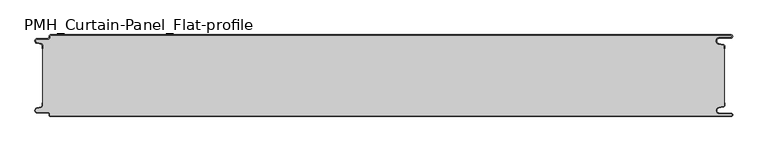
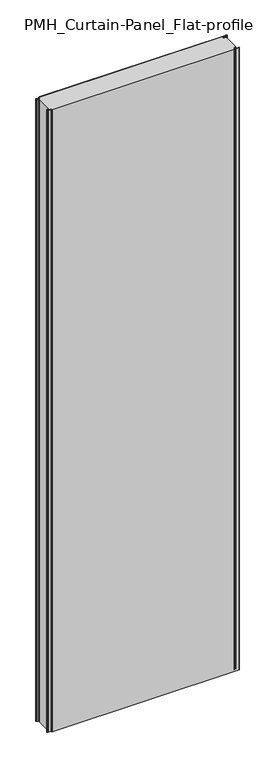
"""IFC4 building model written with IfcOpenShell, lengths in millimetres: plate geometry, PMH_Curtain-Panel_Flat-profile : ACH_PMH_Stone-wool-Panel_120M."""

from ifc_helpers import new_model, si_unit, point, frame, frame_2d, origin, origin_with_axes, place, context, project, spatial, polyline, circle_curve, trimmed, segment, composite_curve, outline, extrude, source, transform, mapped, element, save
from ifc_brep_helpers import plane_surface, cylinder_surface, revolved_surface, advanced_brep


def pmh_curtain_panel_flat_profile_743ba4fc(model_context):
    return source(origin(), model_context, "Body", "SolidModel", [
        advanced_brep(
        [(508.1, 0.0, 3500.0), (-487.4, 0.0, 3500.0), (-489.4, -2.0, 3500.0), (-489.4, -3.4, 3500.0), (-491.4, -5.4, 3500.0), (-506.9, -5.4, 3500.0), (-507.7098239, -12.5077322, 3500.0), (-501.5500979, -13.929817, 3500.0), (-500.0, -15.878557, 3500.0), (-500.0, -20.0, 3500.0), (-499.2, -20.0, 3500.0), (-499.2, -15.878557, 3500.0), (-501.370137, -13.1503208, 3500.0), (-507.529863, -11.728236, 3500.0), (-506.9, -6.2, 3500.0), (-491.4, -6.2, 3500.0), (-488.6, -3.4, 3500.0), (-488.6, -2.0, 3500.0), (-487.4, -0.8, 3500.0), (508.1, -0.8, 3500.0), (508.1, -4.2, 3500.0), (491.1, -4.2, 3500.0), (490.2664884, -13.7270771, 3500.0), (496.7125669, -14.8636953, 3500.0), (498.2, -16.6363492, 3500.0), (498.2, -20.0, 3500.0), (499.0, -20.0, 3500.0), (499.0, -16.6363492, 3500.0), (496.8514855, -14.0758491, 3500.0), (490.405407, -12.939231, 3500.0), (491.1, -5.0, 3500.0), (508.1, -5.0, 3500.0), (510.6, -2.5000002, 3500.0), (-487.4, 0.0, 0.0), (508.1, 0.0, 0.0), (510.6, -2.4999998, 0.0), (508.1, -5.0, 0.0), (491.1, -5.0, 0.0), (490.405407, -12.939231, 0.0), (496.8514855, -14.0758491, 0.0), (499.0, -16.6363492, 0.0), (499.0, -20.0, 0.0), (498.2, -20.0, 0.0), (498.2, -16.6363492, 0.0), (496.7125669, -14.8636953, 0.0), (490.2664884, -13.7270771, 0.0), (491.1, -4.2, 0.0), (508.1, -4.2, 0.0), (508.1, -0.8, 0.0), (-487.4, -0.8, 0.0), (-488.6, -2.0, 0.0), (-488.6, -3.4, 0.0), (-491.4, -6.2, 0.0), (-506.9, -6.2, 0.0), (-507.529863, -11.7282362, 0.0), (-501.370137, -13.150321, 0.0), (-499.2, -15.878557, 0.0), (-499.2, -20.0, 0.0), (-500.0, -20.0, 0.0), (-500.0, -15.878557, 0.0), (-501.5500978, -13.9298169, 0.0), (-507.7098239, -12.507732, 0.0), (-506.9, -5.4, 0.0), (-491.4, -5.4, 0.0), (-489.4, -3.4, 0.0), (-489.4, -2.0, 0.0)],
        [
            (0, 1),
            (1, 2, circle_curve(frame((-487.4, -2.0, 3500.0), z_axis=(0.0, 0.0, 1.0), x_axis=(1.0, 0.0, 0.0)), 2.0)),
            (2, 3),
            (3, 4, circle_curve(frame((-491.4, -3.4, 3500.0), z_axis=(0.0, 0.0, -1.0), x_axis=(1.0, 0.0, 0.0)), 2.0)),
            (4, 5),
            (5, 6, circle_curve(frame((-506.9, -9.0, 3500.0), z_axis=(0.0, 0.0, 1.0), x_axis=(1.0, 0.0, 0.0)), 3.6)),
            (6, 7),
            (7, 8, circle_curve(frame((-502.0, -15.878557, 3500.0), z_axis=(0.0, 0.0, -1.0), x_axis=(1.0, 0.0, 0.0)), 2.0)),
            (8, 9),
            (9, 10),
            (10, 11),
            (11, 12, circle_curve(frame((-502.0, -15.878557, 3500.0), z_axis=(0.0, 0.0, 1.0), x_axis=(1.0, 0.0, 0.0)), 2.8)),
            (12, 13),
            (13, 14, circle_curve(frame((-506.9, -9.0, 3500.0), z_axis=(0.0, 0.0, -1.0), x_axis=(1.0, 0.0, 0.0)), 2.8)),
            (14, 15),
            (15, 16, circle_curve(frame((-491.4, -3.4, 3500.0), z_axis=(0.0, 0.0, 1.0), x_axis=(1.0, 0.0, 0.0)), 2.8)),
            (16, 17),
            (17, 18, circle_curve(frame((-487.4, -2.0, 3500.0), z_axis=(0.0, 0.0, -1.0), x_axis=(1.0, 0.0, 0.0)), 1.2)),
            (18, 19),
            (19, 20, circle_curve(frame((508.1, -2.5, 3500.0), z_axis=(0.0, 0.0, -1.0), x_axis=(1.0, 0.0, 0.0)), 1.7)),
            (20, 21),
            (21, 22, circle_curve(frame((491.1, -9.0, 3500.0), z_axis=(0.0, 0.0, 1.0), x_axis=(1.0, 0.0, 0.0)), 4.8)),
            (22, 23),
            (23, 24, circle_curve(frame((496.4, -16.6363492, 3500.0), z_axis=(0.0, 0.0, -1.0), x_axis=(1.0, 0.0, 0.0)), 1.8)),
            (24, 25),
            (25, 26),
            (26, 27),
            (27, 28, circle_curve(frame((496.4, -16.6363492, 3500.0), z_axis=(0.0, 0.0, 1.0), x_axis=(1.0, 0.0, 0.0)), 2.6)),
            (28, 29),
            (29, 30, circle_curve(frame((491.1, -9.0, 3500.0), z_axis=(0.0, 0.0, -1.0), x_axis=(1.0, 0.0, 0.0)), 4.0)),
            (30, 31),
            (31, 32, circle_curve(frame((508.1, -2.5, 3500.0), z_axis=(0.0, 0.0, 1.0), x_axis=(1.0, 0.0, 0.0)), 2.5)),
            (32, 0, circle_curve(frame((508.1, -2.5, 3500.0), z_axis=(0.0, 0.0, 1.0), x_axis=(1.0, 0.0, 0.0)), 2.5)),
            (33, 34),
            (34, 35, circle_curve(frame((508.1, -2.5, 0.0), z_axis=(0.0, 0.0, -1.0), x_axis=(1.0, 0.0, 0.0)), 2.5)),
            (35, 36, circle_curve(frame((508.1, -2.5, 0.0), z_axis=(0.0, 0.0, -1.0), x_axis=(1.0, 0.0, 0.0)), 2.5)),
            (36, 37),
            (37, 38, circle_curve(frame((491.1, -9.0, 0.0), z_axis=(0.0, 0.0, 1.0), x_axis=(1.0, 0.0, 0.0)), 4.0)),
            (38, 39),
            (39, 40, circle_curve(frame((496.4, -16.6363492, 0.0), z_axis=(0.0, 0.0, -1.0), x_axis=(1.0, 0.0, 0.0)), 2.6)),
            (40, 41),
            (41, 42),
            (42, 43),
            (43, 44, circle_curve(frame((496.4, -16.6363492, 0.0), z_axis=(0.0, 0.0, 1.0), x_axis=(1.0, 0.0, 0.0)), 1.8)),
            (44, 45),
            (45, 46, circle_curve(frame((491.1, -9.0, 0.0), z_axis=(0.0, 0.0, -1.0), x_axis=(1.0, 0.0, 0.0)), 4.8)),
            (46, 47),
            (47, 48, circle_curve(frame((508.1, -2.5, 0.0), z_axis=(0.0, 0.0, 1.0), x_axis=(1.0, 0.0, 0.0)), 1.7)),
            (48, 49),
            (49, 50, circle_curve(frame((-487.4, -2.0, 0.0), z_axis=(0.0, 0.0, 1.0), x_axis=(1.0, 0.0, 0.0)), 1.2)),
            (50, 51),
            (51, 52, circle_curve(frame((-491.4, -3.4, 0.0), z_axis=(0.0, 0.0, -1.0), x_axis=(1.0, 0.0, 0.0)), 2.8)),
            (52, 53),
            (53, 54, circle_curve(frame((-506.9, -9.0, 0.0), z_axis=(0.0, 0.0, 1.0), x_axis=(1.0, 0.0, 0.0)), 2.8)),
            (54, 55),
            (55, 56, circle_curve(frame((-502.0, -15.878557, 0.0), z_axis=(0.0, 0.0, -1.0), x_axis=(1.0, 0.0, 0.0)), 2.8)),
            (56, 57),
            (57, 58),
            (58, 59),
            (59, 60, circle_curve(frame((-502.0, -15.878557, 0.0), z_axis=(0.0, 0.0, 1.0), x_axis=(1.0, 0.0, 0.0)), 2.0)),
            (60, 61),
            (61, 62, circle_curve(frame((-506.9, -9.0, 0.0), z_axis=(0.0, 0.0, -1.0), x_axis=(1.0, 0.0, 0.0)), 3.6)),
            (62, 63),
            (63, 64, circle_curve(frame((-491.4, -3.4, 0.0), z_axis=(0.0, 0.0, 1.0), x_axis=(1.0, 0.0, 0.0)), 2.0)),
            (64, 65),
            (65, 33, circle_curve(frame((-487.4, -2.0, 0.0), z_axis=(0.0, 0.0, -1.0), x_axis=(1.0, 0.0, 0.0)), 2.0)),
            (1, 33),
            (65, 2),
            (64, 3),
            (63, 4),
            (62, 5),
            (61, 6),
            (60, 7),
            (59, 8),
            (58, 9),
            (57, 10),
            (56, 11),
            (55, 12),
            (54, 13),
            (53, 14),
            (52, 15),
            (51, 16),
            (50, 17),
            (49, 18),
            (48, 19),
            (47, 20),
            (46, 21),
            (45, 22),
            (44, 23),
            (43, 24),
            (42, 25),
            (41, 26),
            (40, 27),
            (39, 28),
            (38, 29),
            (37, 30),
            (36, 31),
            (34, 0),
        ],
        [
            plane_surface(frame((-500.0, 0.0, 3500.0), z_axis=(0.0, 0.0, 1.0), x_axis=(0.0, 1.0, 0.0))),
            plane_surface(frame((-500.0, 0.0, 0.0), z_axis=(0.0, 0.0, -1.0), x_axis=(0.0, 1.0, 0.0))),
            cylinder_surface(frame((-487.4, -2.0, 3500.0), z_axis=(0.0, 0.0, 1.0), x_axis=(1.0, 0.0, 0.0)), 2.0),
            plane_surface(frame((-489.4, -2.0, 3500.0), z_axis=(-1.0, 0.0, 0.0), x_axis=(0.0, 0.0, -1.0))),
            revolved_surface(polyline([(-489.4, -3.4, 0.0), (-489.4, -3.4, 3500.0)]), (-491.4, -3.4, 3500.0), (0.0, 0.0, -1.0)),
            plane_surface(frame((-491.4, -5.4, 3500.0), z_axis=(0.0, 1.0, 0.0), x_axis=(0.0, 0.0, -1.0))),
            cylinder_surface(frame((-506.9, -9.0, 3500.0), z_axis=(0.0, 0.0, 1.0), x_axis=(1.0, 0.0, 0.0)), 3.6),
            plane_surface(frame((-507.7098239, -12.507732, 3500.0), z_axis=(-0.2249510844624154, -0.9743700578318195, 0.0), x_axis=(0.0, 0.0, -1.0))),
            revolved_surface(polyline([(-500.0, -15.878557, 0.0), (-500.0, -15.878557, 3500.0)]), (-502.0, -15.878557, 3500.0), (0.0, 0.0, -1.0)),
            plane_surface(frame((-500.0, -15.878557, 3500.0), z_axis=(-1.0, 0.0, 0.0), x_axis=(0.0, 0.0, -1.0))),
            plane_surface(frame((-500.0, -20.0, 3500.0), z_axis=(0.0, -1.0, 0.0), x_axis=(0.0, 0.0, -1.0))),
            plane_surface(frame((-499.2, -20.0, 3500.0), z_axis=(1.0, 0.0, 0.0), x_axis=(0.0, 0.0, -1.0))),
            cylinder_surface(frame((-502.0, -15.878557, 3500.0), z_axis=(0.0, 0.0, 1.0), x_axis=(1.0, 0.0, 0.0)), 2.8),
            plane_surface(frame((-501.370137, -13.150321, 3500.0), z_axis=(0.22495108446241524, 0.9743700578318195, 0.0), x_axis=(0.0, 0.0, -1.0))),
            revolved_surface(polyline([(-504.09999999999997, -9.0, 0.0), (-504.09999999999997, -9.0, 3500.0)]), (-506.9, -9.0, 3500.0), (0.0, 0.0, -1.0)),
            plane_surface(frame((-506.9, -6.2, 3500.0), z_axis=(0.0, -1.0, 0.0), x_axis=(0.0, 0.0, -1.0))),
            cylinder_surface(frame((-491.4, -3.4, 3500.0), z_axis=(0.0, 0.0, 1.0), x_axis=(1.0, 0.0, 0.0)), 2.8),
            plane_surface(frame((-488.6, -3.4, 3500.0), z_axis=(1.0, 0.0, 0.0), x_axis=(0.0, 0.0, -1.0))),
            revolved_surface(polyline([(-486.2, -2.0, 0.0), (-486.2, -2.0, 3500.0)]), (-487.4, -2.0, 3500.0), (0.0, 0.0, -1.0)),
            plane_surface(frame((-487.4, -0.8, 3500.0), z_axis=(0.0, -1.0, 0.0), x_axis=(0.0, 0.0, -1.0))),
            revolved_surface(polyline([(509.8, -2.5, 0.0), (509.8, -2.5, 3500.0)]), (508.1, -2.5, 3500.0), (0.0, 0.0, -1.0)),
            plane_surface(frame((508.1, -4.2, 3500.0), z_axis=(0.0, 1.0, 0.0), x_axis=(0.0, 0.0, -1.0))),
            cylinder_surface(frame((491.1, -9.0, 3500.0), z_axis=(0.0, 0.0, 1.0), x_axis=(1.0, 0.0, 0.0)), 4.8),
            plane_surface(frame((490.2664884, -13.7270771, 3500.0), z_axis=(-0.17364826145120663, -0.984807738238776, 0.0), x_axis=(0.0, 0.0, -1.0))),
            revolved_surface(polyline([(498.2, -16.6363492, 0.0), (498.2, -16.6363492, 3500.0)]), (496.4, -16.6363492, 3500.0), (0.0, 0.0, -1.0)),
            plane_surface(frame((498.2, -16.6363492, 3500.0), z_axis=(-1.0, 0.0, 0.0), x_axis=(0.0, 0.0, -1.0))),
            plane_surface(frame((498.2, -20.0, 3500.0), z_axis=(0.0, -1.0, 0.0), x_axis=(0.0, 0.0, -1.0))),
            plane_surface(frame((499.0, -20.0, 3500.0), z_axis=(1.0, 0.0, 0.0), x_axis=(0.0, 0.0, -1.0))),
            cylinder_surface(frame((496.4, -16.6363492, 3500.0), z_axis=(0.0, 0.0, 1.0), x_axis=(1.0, 0.0, 0.0)), 2.6),
            plane_surface(frame((496.8514855, -14.0758491, 3500.0), z_axis=(0.17364826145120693, 0.9848077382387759, 0.0), x_axis=(0.0, 0.0, -1.0))),
            revolved_surface(polyline([(495.1, -9.0, 0.0), (495.1, -9.0, 3500.0)]), (491.1, -9.0, 3500.0), (0.0, 0.0, -1.0)),
            plane_surface(frame((491.1, -5.0, 3500.0), z_axis=(0.0, -1.0, 0.0), x_axis=(0.0, 0.0, -1.0))),
            cylinder_surface(frame((508.1, -2.5, 3500.0), z_axis=(0.0, 0.0, 1.0), x_axis=(1.0, 0.0, 0.0)), 2.5),
            plane_surface(frame((490.5783588, 0.0, 3500.0), z_axis=(0.0, 1.0, 0.0), x_axis=(0.0, 0.0, -1.0))),
        ],
        [
            (0, [[1, 2, 3, 4, 5, 6, 7, 8, 9, 10, 11, 12, 13, 14, 15, 16, 17, 18, 19, 20, 21, 22, 23, 24, 25, 26, 27, 28, 29, 30, 31, 32, 33]]),
            (1, [[34, 35, 36, 37, 38, 39, 40, 41, 42, 43, 44, 45, 46, 47, 48, 49, 50, 51, 52, 53, 54, 55, 56, 57, 58, 59, 60, 61, 62, 63, 64, 65, 66]]),
            (2, [[-2, 67, -66, 68]]),
            (3, [[-3, -68, -65, 69]]),
            (4, [[-4, -69, -64, 70]]),
            (5, [[-5, -70, -63, 71]]),
            (6, [[-6, -71, -62, 72]]),
            (7, [[-7, -72, -61, 73]]),
            (8, [[-8, -73, -60, 74]]),
            (9, [[-9, -74, -59, 75]]),
            (10, [[-10, -75, -58, 76]]),
            (11, [[-11, -76, -57, 77]]),
            (12, [[-12, -77, -56, 78]]),
            (13, [[-13, -78, -55, 79]]),
            (14, [[-14, -79, -54, 80]]),
            (15, [[-15, -80, -53, 81]]),
            (16, [[-16, -81, -52, 82]]),
            (17, [[-17, -82, -51, 83]]),
            (18, [[-18, -83, -50, 84]]),
            (19, [[-19, -84, -49, 85]]),
            (20, [[-20, -85, -48, 86]]),
            (21, [[-21, -86, -47, 87]]),
            (22, [[-22, -87, -46, 88]]),
            (23, [[-23, -88, -45, 89]]),
            (24, [[-24, -89, -44, 90]]),
            (25, [[-25, -90, -43, 91]]),
            (26, [[-26, -91, -42, 92]]),
            (27, [[-27, -92, -41, 93]]),
            (28, [[-28, -93, -40, 94]]),
            (29, [[-29, -94, -39, 95]]),
            (30, [[-30, -95, -38, 96]]),
            (31, [[-31, -96, -37, 97]]),
            (32, [[-97, -36, -35, 98, -33, -32]]),
            (33, [[-1, -98, -34, -67]]),
        ],
    ),
        extrude(outline(composite_curve([segment(polyline([(-499.2, -104.1214426), (-499.2, -15.8785573)]), True, "CONTINUOUS"), segment(trimmed(circle_curve(frame_2d((-502.0, -15.8785573)), 2.8), [point((-499.2, -15.8785573))], [point((-501.370137, -13.1503212))], True, "CARTESIAN"), True, "CONTINUOUS"), segment(polyline([(-501.370137, -13.1503212), (-507.5298631, -11.7282362)]), True, "CONTINUOUS"), segment(trimmed(circle_curve(frame_2d((-506.9, -9.0)), 2.8), [point((-507.5298631, -11.7282362))], [point((-506.9, -6.2))], False, "CARTESIAN"), True, "CONTINUOUS"), segment(polyline([(-506.9, -6.2), (-491.4000001, -6.2)]), True, "CONTINUOUS"), segment(trimmed(circle_curve(frame_2d((-491.4000001, -3.4)), 2.8), [point((-491.4000001, -6.2))], [point((-488.6000001, -3.4))], True, "CARTESIAN"), True, "CONTINUOUS"), segment(polyline([(-488.6000001, -3.4), (-488.6000001, -2.0)]), True, "CONTINUOUS"), segment(trimmed(circle_curve(frame_2d((-487.4000001, -2.0)), 1.2), [point((-488.6000001, -2.0))], [point((-487.4000001, -0.8))], False, "CARTESIAN"), True, "CONTINUOUS"), segment(polyline([(-487.4000001, -0.8), (508.1, -0.8)]), True, "CONTINUOUS"), segment(trimmed(circle_curve(frame_2d((508.1, -2.5)), 1.7), [point((508.1, -0.8))], [point((508.1, -4.2))], False, "CARTESIAN"), True, "CONTINUOUS"), segment(polyline([(508.1, -4.2), (491.1, -4.2)]), True, "CONTINUOUS"), segment(trimmed(circle_curve(frame_2d((491.1, -9.0)), 4.8), [point((491.1, -4.2))], [point((490.2664883, -13.7270771))], True, "CARTESIAN"), True, "CONTINUOUS"), segment(polyline([(490.2664883, -13.7270771), (496.7125668, -14.8636953)]), True, "CONTINUOUS"), segment(trimmed(circle_curve(frame_2d((496.4, -16.6363492)), 1.8), [point((496.7125668, -14.8636953))], [point((498.2, -16.6363492))], False, "CARTESIAN"), True, "CONTINUOUS"), segment(polyline([(498.2, -16.6363492), (498.2, -103.3636508)]), True, "CONTINUOUS"), segment(trimmed(circle_curve(frame_2d((496.4, -103.3636508)), 1.8), [point((498.2, -103.3636508))], [point((496.7125668, -105.1363047))], False, "CARTESIAN"), True, "CONTINUOUS"), segment(polyline([(496.7125668, -105.1363047), (490.2664883, -106.2729229)]), True, "CONTINUOUS"), segment(trimmed(circle_curve(frame_2d((491.1, -111.0)), 4.8), [point((490.2664883, -106.2729229))], [point((491.1, -115.8))], True, "CARTESIAN"), True, "CONTINUOUS"), segment(polyline([(491.1, -115.8), (508.1, -115.8)]), True, "CONTINUOUS"), segment(trimmed(circle_curve(frame_2d((508.1, -117.5)), 1.7), [point((508.1, -115.8))], [point((508.1, -119.2))], False, "CARTESIAN"), True, "CONTINUOUS"), segment(polyline([(508.1, -119.2), (-487.4000001, -119.2)]), True, "CONTINUOUS"), segment(trimmed(circle_curve(frame_2d((-487.4000001, -118.0)), 1.2), [point((-487.4000001, -119.2))], [point((-488.6000001, -118.0))], False, "CARTESIAN"), True, "CONTINUOUS"), segment(polyline([(-488.6000001, -118.0), (-488.6000001, -116.6)]), True, "CONTINUOUS"), segment(trimmed(circle_curve(frame_2d((-491.4000001, -116.6)), 2.8), [point((-488.6000001, -116.6))], [point((-491.4000001, -113.8))], True, "CARTESIAN"), True, "CONTINUOUS"), segment(polyline([(-491.4000001, -113.8), (-506.9, -113.8)]), True, "CONTINUOUS"), segment(trimmed(circle_curve(frame_2d((-506.9, -111.0)), 2.8), [point((-506.9, -113.8))], [point((-507.5298631, -108.2717638))], False, "CARTESIAN"), True, "CONTINUOUS"), segment(polyline([(-507.5298631, -108.2717638), (-501.370137, -106.8496788)]), True, "CONTINUOUS"), segment(trimmed(circle_curve(frame_2d((-502.0, -104.1214426)), 2.8), [point((-501.370137, -106.8496788))], [point((-499.2, -104.1214426))], True, "CARTESIAN"), True, "CONTINUOUS")], self_intersect=False)), origin_with_axes(), (0.0, 0.0, 1.0), 3500.0),
        advanced_brep(
        [(-487.4, -120.0, 3500.0), (508.1, -120.0, 3500.0), (510.6, -117.5000002, 3500.0), (508.1, -115.0, 3500.0), (491.1, -115.0, 3500.0), (490.405407, -107.060769, 3500.0), (496.8514855, -105.9241509, 3500.0), (499.0, -103.3636508, 3500.0), (499.0, -100.0, 3500.0), (498.2, -100.0, 3500.0), (498.2, -103.3636508, 3500.0), (496.7125669, -105.1363047, 3500.0), (490.2664884, -106.2729229, 3500.0), (491.1, -115.8, 3500.0), (508.1, -115.8, 3500.0), (508.1, -119.2, 3500.0), (-487.4, -119.2, 3500.0), (-488.6, -118.0, 3500.0), (-488.6, -116.6, 3500.0), (-491.4, -113.8, 3500.0), (-506.9, -113.8, 3500.0), (-507.529863, -108.2717638, 3500.0), (-501.370137, -106.849679, 3500.0), (-499.2, -104.121443, 3500.0), (-499.2, -100.0, 3500.0), (-500.0, -100.0, 3500.0), (-500.0, -104.121443, 3500.0), (-501.5500978, -106.0701831, 3500.0), (-507.7098239, -107.492268, 3500.0), (-506.9, -114.6, 3500.0), (-491.4, -114.6, 3500.0), (-489.4, -116.6, 3500.0), (-489.4, -118.0, 3500.0), (508.1, -120.0, 0.0), (-487.4, -120.0, 0.0), (-489.4, -118.0, 0.0), (-489.4, -116.6, 0.0), (-491.4, -114.6, 0.0), (-506.9, -114.6, 0.0), (-507.7098239, -107.4922678, 0.0), (-501.5500979, -106.070183, 0.0), (-500.0, -104.121443, 0.0), (-500.0, -100.0, 0.0), (-499.2, -100.0, 0.0), (-499.2, -104.121443, 0.0), (-501.370137, -106.8496792, 0.0), (-507.529863, -108.271764, 0.0), (-506.9, -113.8, 0.0), (-491.4, -113.8, 0.0), (-488.6, -116.6, 0.0), (-488.6, -118.0, 0.0), (-487.4, -119.2, 0.0), (508.1, -119.2, 0.0), (508.1, -115.8, 0.0), (491.1, -115.8, 0.0), (490.2664884, -106.2729229, 0.0), (496.7125669, -105.1363047, 0.0), (498.2, -103.3636508, 0.0), (498.2, -100.0, 0.0), (499.0, -100.0, 0.0), (499.0, -103.3636508, 0.0), (496.8514855, -105.9241509, 0.0), (490.405407, -107.060769, 0.0), (491.1, -115.0, 0.0), (508.1, -115.0, 0.0), (510.6, -117.4999998, 0.0)],
        [
            (0, 1),
            (1, 2, circle_curve(frame((508.1, -117.5, 3500.0), z_axis=(0.0, 0.0, 1.0), x_axis=(1.0, 0.0, 0.0)), 2.5)),
            (2, 3, circle_curve(frame((508.1, -117.5, 3500.0), z_axis=(0.0, 0.0, 1.0), x_axis=(1.0, 0.0, 0.0)), 2.5)),
            (3, 4),
            (4, 5, circle_curve(frame((491.1, -111.0, 3500.0), z_axis=(0.0, 0.0, -1.0), x_axis=(1.0, 0.0, 0.0)), 4.0)),
            (5, 6),
            (6, 7, circle_curve(frame((496.4, -103.3636508, 3500.0), z_axis=(0.0, 0.0, 1.0), x_axis=(1.0, 0.0, 0.0)), 2.6)),
            (7, 8),
            (8, 9),
            (9, 10),
            (10, 11, circle_curve(frame((496.4, -103.3636508, 3500.0), z_axis=(0.0, 0.0, -1.0), x_axis=(1.0, 0.0, 0.0)), 1.8)),
            (11, 12),
            (12, 13, circle_curve(frame((491.1, -111.0, 3500.0), z_axis=(0.0, 0.0, 1.0), x_axis=(1.0, 0.0, 0.0)), 4.8)),
            (13, 14),
            (14, 15, circle_curve(frame((508.1, -117.5, 3500.0), z_axis=(0.0, 0.0, -1.0), x_axis=(1.0, 0.0, 0.0)), 1.7)),
            (15, 16),
            (16, 17, circle_curve(frame((-487.4, -118.0, 3500.0), z_axis=(0.0, 0.0, -1.0), x_axis=(1.0, 0.0, 0.0)), 1.2)),
            (17, 18),
            (18, 19, circle_curve(frame((-491.4, -116.6, 3500.0), z_axis=(0.0, 0.0, 1.0), x_axis=(1.0, 0.0, 0.0)), 2.8)),
            (19, 20),
            (20, 21, circle_curve(frame((-506.9, -111.0, 3500.0), z_axis=(0.0, 0.0, -1.0), x_axis=(1.0, 0.0, 0.0)), 2.8)),
            (21, 22),
            (22, 23, circle_curve(frame((-502.0, -104.121443, 3500.0), z_axis=(0.0, 0.0, 1.0), x_axis=(1.0, 0.0, 0.0)), 2.8)),
            (23, 24),
            (24, 25),
            (25, 26),
            (26, 27, circle_curve(frame((-502.0, -104.121443, 3500.0), z_axis=(0.0, 0.0, -1.0), x_axis=(1.0, 0.0, 0.0)), 2.0)),
            (27, 28),
            (28, 29, circle_curve(frame((-506.9, -111.0, 3500.0), z_axis=(0.0, 0.0, 1.0), x_axis=(1.0, 0.0, 0.0)), 3.6)),
            (29, 30),
            (30, 31, circle_curve(frame((-491.4, -116.6, 3500.0), z_axis=(0.0, 0.0, -1.0), x_axis=(1.0, 0.0, 0.0)), 2.0)),
            (31, 32),
            (32, 0, circle_curve(frame((-487.4, -118.0, 3500.0), z_axis=(0.0, 0.0, 1.0), x_axis=(1.0, 0.0, 0.0)), 2.0)),
            (33, 34),
            (34, 35, circle_curve(frame((-487.4, -118.0, 0.0), z_axis=(0.0, 0.0, -1.0), x_axis=(1.0, 0.0, 0.0)), 2.0)),
            (35, 36),
            (36, 37, circle_curve(frame((-491.4, -116.6, 0.0), z_axis=(0.0, 0.0, 1.0), x_axis=(1.0, 0.0, 0.0)), 2.0)),
            (37, 38),
            (38, 39, circle_curve(frame((-506.9, -111.0, 0.0), z_axis=(0.0, 0.0, -1.0), x_axis=(1.0, 0.0, 0.0)), 3.6)),
            (39, 40),
            (40, 41, circle_curve(frame((-502.0, -104.121443, 0.0), z_axis=(0.0, 0.0, 1.0), x_axis=(1.0, 0.0, 0.0)), 2.0)),
            (41, 42),
            (42, 43),
            (43, 44),
            (44, 45, circle_curve(frame((-502.0, -104.121443, 0.0), z_axis=(0.0, 0.0, -1.0), x_axis=(1.0, 0.0, 0.0)), 2.8)),
            (45, 46),
            (46, 47, circle_curve(frame((-506.9, -111.0, 0.0), z_axis=(0.0, 0.0, 1.0), x_axis=(1.0, 0.0, 0.0)), 2.8)),
            (47, 48),
            (48, 49, circle_curve(frame((-491.4, -116.6, 0.0), z_axis=(0.0, 0.0, -1.0), x_axis=(1.0, 0.0, 0.0)), 2.8)),
            (49, 50),
            (50, 51, circle_curve(frame((-487.4, -118.0, 0.0), z_axis=(0.0, 0.0, 1.0), x_axis=(1.0, 0.0, 0.0)), 1.2)),
            (51, 52),
            (52, 53, circle_curve(frame((508.1, -117.5, 0.0), z_axis=(0.0, 0.0, 1.0), x_axis=(1.0, 0.0, 0.0)), 1.7)),
            (53, 54),
            (54, 55, circle_curve(frame((491.1, -111.0, 0.0), z_axis=(0.0, 0.0, -1.0), x_axis=(1.0, 0.0, 0.0)), 4.8)),
            (55, 56),
            (56, 57, circle_curve(frame((496.4, -103.3636508, 0.0), z_axis=(0.0, 0.0, 1.0), x_axis=(1.0, 0.0, 0.0)), 1.8)),
            (57, 58),
            (58, 59),
            (59, 60),
            (60, 61, circle_curve(frame((496.4, -103.3636508, 0.0), z_axis=(0.0, 0.0, -1.0), x_axis=(1.0, 0.0, 0.0)), 2.6)),
            (61, 62),
            (62, 63, circle_curve(frame((491.1, -111.0, 0.0), z_axis=(0.0, 0.0, 1.0), x_axis=(1.0, 0.0, 0.0)), 4.0)),
            (63, 64),
            (64, 65, circle_curve(frame((508.1, -117.5, 0.0), z_axis=(0.0, 0.0, -1.0), x_axis=(1.0, 0.0, 0.0)), 2.5)),
            (65, 33, circle_curve(frame((508.1, -117.5, 0.0), z_axis=(0.0, 0.0, -1.0), x_axis=(1.0, 0.0, 0.0)), 2.5)),
            (0, 34),
            (33, 1),
            (64, 3),
            (63, 4),
            (62, 5),
            (61, 6),
            (60, 7),
            (59, 8),
            (58, 9),
            (57, 10),
            (56, 11),
            (55, 12),
            (54, 13),
            (53, 14),
            (52, 15),
            (51, 16),
            (50, 17),
            (49, 18),
            (48, 19),
            (47, 20),
            (46, 21),
            (45, 22),
            (44, 23),
            (43, 24),
            (42, 25),
            (41, 26),
            (40, 27),
            (39, 28),
            (38, 29),
            (37, 30),
            (36, 31),
            (35, 32),
        ],
        [
            plane_surface(frame((-500.0, -120.0, 3500.0), z_axis=(0.0, 0.0, 1.0), x_axis=(0.0, 1.0, 0.0))),
            plane_surface(frame((-500.0, -120.0, 0.0), z_axis=(0.0, 0.0, -1.0), x_axis=(0.0, 1.0, 0.0))),
            plane_surface(frame((490.5783588, -120.0, 3500.0), z_axis=(0.0, -1.0, 0.0), x_axis=(0.0, 0.0, -1.0))),
            cylinder_surface(frame((508.1, -117.5, 3500.0), z_axis=(0.0, 0.0, 1.0), x_axis=(1.0, 0.0, 0.0)), 2.5),
            plane_surface(frame((508.1, -115.0, 3500.0), z_axis=(0.0, 1.0, 0.0), x_axis=(0.0, 0.0, -1.0))),
            revolved_surface(polyline([(495.1, -111.0, 0.0), (495.1, -111.0, 3500.0)]), (491.1, -111.0, 3500.0), (0.0, 0.0, -1.0)),
            plane_surface(frame((490.405407, -107.060769, 3500.0), z_axis=(0.17364826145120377, -0.9848077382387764, 0.0), x_axis=(0.0, 0.0, -1.0))),
            cylinder_surface(frame((496.4, -103.3636508, 3500.0), z_axis=(0.0, 0.0, 1.0), x_axis=(1.0, 0.0, 0.0)), 2.6),
            plane_surface(frame((499.0, -103.3636508, 3500.0), z_axis=(1.0, 0.0, 0.0), x_axis=(0.0, 0.0, -1.0))),
            plane_surface(frame((499.0, -100.0, 3500.0), z_axis=(0.0, 1.0, 0.0), x_axis=(0.0, 0.0, -1.0))),
            plane_surface(frame((498.2, -100.0, 3500.0), z_axis=(-1.0, 0.0, 0.0), x_axis=(0.0, 0.0, -1.0))),
            revolved_surface(polyline([(498.2, -103.3636508, 0.0), (498.2, -103.3636508, 3500.0)]), (496.4, -103.3636508, 3500.0), (0.0, 0.0, -1.0)),
            plane_surface(frame((496.7125669, -105.1363047, 3500.0), z_axis=(-0.17364826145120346, 0.9848077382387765, 0.0), x_axis=(0.0, 0.0, -1.0))),
            cylinder_surface(frame((491.1, -111.0, 3500.0), z_axis=(0.0, 0.0, 1.0), x_axis=(1.0, 0.0, 0.0)), 4.8),
            plane_surface(frame((491.1, -115.8, 3500.0), z_axis=(0.0, -1.0, 0.0), x_axis=(0.0, 0.0, -1.0))),
            revolved_surface(polyline([(509.8, -117.5, 0.0), (509.8, -117.5, 3500.0)]), (508.1, -117.5, 3500.0), (0.0, 0.0, -1.0)),
            plane_surface(frame((508.1, -119.2, 3500.0), z_axis=(0.0, 1.0, 0.0), x_axis=(0.0, 0.0, -1.0))),
            revolved_surface(polyline([(-486.2, -118.0, 0.0), (-486.2, -118.0, 3500.0)]), (-487.4, -118.0, 3500.0), (0.0, 0.0, -1.0)),
            plane_surface(frame((-488.6, -118.0, 3500.0), z_axis=(1.0, 0.0, 0.0), x_axis=(0.0, 0.0, -1.0))),
            cylinder_surface(frame((-491.4, -116.6, 3500.0), z_axis=(0.0, 0.0, 1.0), x_axis=(1.0, 0.0, 0.0)), 2.8),
            plane_surface(frame((-491.4, -113.8, 3500.0), z_axis=(0.0, 1.0, 0.0), x_axis=(0.0, 0.0, -1.0))),
            revolved_surface(polyline([(-504.09999999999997, -111.0, 0.0), (-504.09999999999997, -111.0, 3500.0)]), (-506.9, -111.0, 3500.0), (0.0, 0.0, -1.0)),
            plane_surface(frame((-507.529863, -108.271764, 3500.0), z_axis=(0.2249510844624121, -0.9743700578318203, 0.0), x_axis=(0.0, 0.0, -1.0))),
            cylinder_surface(frame((-502.0, -104.121443, 3500.0), z_axis=(0.0, 0.0, 1.0), x_axis=(1.0, 0.0, 0.0)), 2.8),
            plane_surface(frame((-499.2, -104.121443, 3500.0), z_axis=(1.0, 0.0, 0.0), x_axis=(0.0, 0.0, -1.0))),
            plane_surface(frame((-499.2, -100.0, 3500.0), z_axis=(0.0, 1.0, 0.0), x_axis=(0.0, 0.0, -1.0))),
            plane_surface(frame((-500.0, -100.0, 3500.0), z_axis=(-1.0, 0.0, 0.0), x_axis=(0.0, 0.0, -1.0))),
            revolved_surface(polyline([(-500.0, -104.121443, 0.0), (-500.0, -104.121443, 3500.0)]), (-502.0, -104.121443, 3500.0), (0.0, 0.0, -1.0)),
            plane_surface(frame((-501.5500979, -106.070183, 3500.0), z_axis=(-0.22495108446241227, 0.9743700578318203, 0.0), x_axis=(0.0, 0.0, -1.0))),
            cylinder_surface(frame((-506.9, -111.0, 3500.0), z_axis=(0.0, 0.0, 1.0), x_axis=(1.0, 0.0, 0.0)), 3.6),
            plane_surface(frame((-506.9, -114.6, 3500.0), z_axis=(0.0, -1.0, 0.0), x_axis=(0.0, 0.0, -1.0))),
            revolved_surface(polyline([(-489.4, -116.6, 0.0), (-489.4, -116.6, 3500.0)]), (-491.4, -116.6, 3500.0), (0.0, 0.0, -1.0)),
            plane_surface(frame((-489.4, -116.6, 3500.0), z_axis=(-1.0, 0.0, 0.0), x_axis=(0.0, 0.0, -1.0))),
            cylinder_surface(frame((-487.4, -118.0, 3500.0), z_axis=(0.0, 0.0, 1.0), x_axis=(1.0, 0.0, 0.0)), 2.0),
        ],
        [
            (0, [[1, 2, 3, 4, 5, 6, 7, 8, 9, 10, 11, 12, 13, 14, 15, 16, 17, 18, 19, 20, 21, 22, 23, 24, 25, 26, 27, 28, 29, 30, 31, 32, 33]]),
            (1, [[34, 35, 36, 37, 38, 39, 40, 41, 42, 43, 44, 45, 46, 47, 48, 49, 50, 51, 52, 53, 54, 55, 56, 57, 58, 59, 60, 61, 62, 63, 64, 65, 66]]),
            (2, [[-1, 67, -34, 68]]),
            (3, [[-68, -66, -65, 69, -3, -2]]),
            (4, [[-4, -69, -64, 70]]),
            (5, [[-5, -70, -63, 71]]),
            (6, [[-6, -71, -62, 72]]),
            (7, [[-7, -72, -61, 73]]),
            (8, [[-8, -73, -60, 74]]),
            (9, [[-9, -74, -59, 75]]),
            (10, [[-10, -75, -58, 76]]),
            (11, [[-11, -76, -57, 77]]),
            (12, [[-12, -77, -56, 78]]),
            (13, [[-13, -78, -55, 79]]),
            (14, [[-14, -79, -54, 80]]),
            (15, [[-15, -80, -53, 81]]),
            (16, [[-16, -81, -52, 82]]),
            (17, [[-17, -82, -51, 83]]),
            (18, [[-18, -83, -50, 84]]),
            (19, [[-19, -84, -49, 85]]),
            (20, [[-20, -85, -48, 86]]),
            (21, [[-21, -86, -47, 87]]),
            (22, [[-22, -87, -46, 88]]),
            (23, [[-23, -88, -45, 89]]),
            (24, [[-24, -89, -44, 90]]),
            (25, [[-25, -90, -43, 91]]),
            (26, [[-26, -91, -42, 92]]),
            (27, [[-27, -92, -41, 93]]),
            (28, [[-28, -93, -40, 94]]),
            (29, [[-29, -94, -39, 95]]),
            (30, [[-30, -95, -38, 96]]),
            (31, [[-31, -96, -37, 97]]),
            (32, [[-32, -97, -36, 98]]),
            (33, [[-33, -98, -35, -67]]),
        ],
    ),
    ])


if __name__ == "__main__":
    model = new_model("IFC4")
    model_context = context("Model", 3, world=origin())
    ifc_project = project(units=[si_unit("LENGTHUNIT", "METRE", prefix="MILLI")], contexts=[model_context])
    site = spatial("IfcSite", under=ifc_project)
    building = spatial("IfcBuilding", under=site)
    placement = place(None, origin())
    pmh_curtain_panel_flat_profile_shape = pmh_curtain_panel_flat_profile_743ba4fc(model_context)
    element("IfcPlate", 1, ObjectType="PMH_Curtain-Panel_Flat-profile : ACH_PMH_Stone-wool-Panel_120M", at=placement, inside=building, context=model_context, shape_type="MappedRepresentation", body=[
        mapped(pmh_curtain_panel_flat_profile_shape, transform((0.0, 0.0, 0.0), x_axis=(1.0, 0.0, 0.0), y_axis=(0.0, 1.0, 0.0), z_axis=(0.0, 0.0, 1.0))),
    ])
    save(model, "model.ifc")
